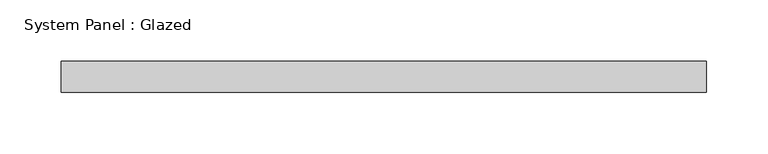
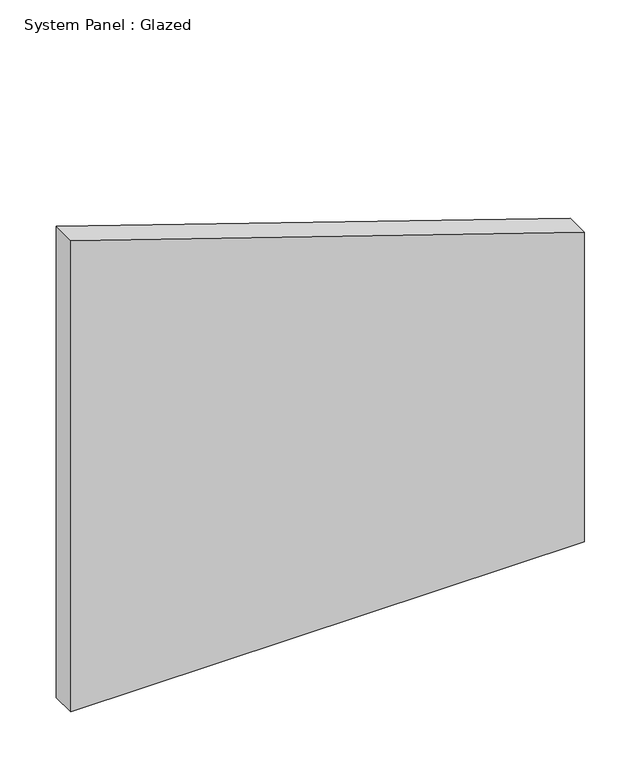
"""IFC4 building model written with IfcOpenShell, lengths in millimetres: plate geometry, System Panel : Glazed."""

from ifc_helpers import new_model, si_unit, frame, origin, place, context, project, spatial, polyline, outline, extrude, source, transform, mapped, element, save


def system_panel_glazed_c252a688(model_context):
    return source(origin(), model_context, "Body", "SweptSolid", [
        extrude(outline(polyline([(0.0, -263.525), (0.0, 263.525), (335.2317895, 263.525), (510.9151229, -263.525), (0.0, -263.525)])), frame((0.0, -44.45, 0.0), z_axis=(0.0, 1.0, 0.0), x_axis=(0.0, 0.0, 1.0)), (0.0, 0.0, 1.0), 25.4),
    ])


if __name__ == "__main__":
    model = new_model("IFC4")
    model_context = context("Model", 3, world=origin())
    ifc_project = project(units=[si_unit("LENGTHUNIT", "METRE", prefix="MILLI")], contexts=[model_context])
    site = spatial("IfcSite", under=ifc_project)
    building = spatial("IfcBuilding", under=site)
    placement = place(None, origin())
    system_panel_glazed_shape = system_panel_glazed_c252a688(model_context)
    element("IfcPlate", 1, ObjectType="System Panel : Glazed", at=placement, inside=building, context=model_context, shape_type="MappedRepresentation", body=[
        mapped(system_panel_glazed_shape, transform((0.0, 0.0, 0.0), x_axis=(1.0, 0.0, 0.0), y_axis=(0.0, 1.0, 0.0), z_axis=(0.0, 0.0, 1.0))),
    ])
    save(model, "model.ifc")
